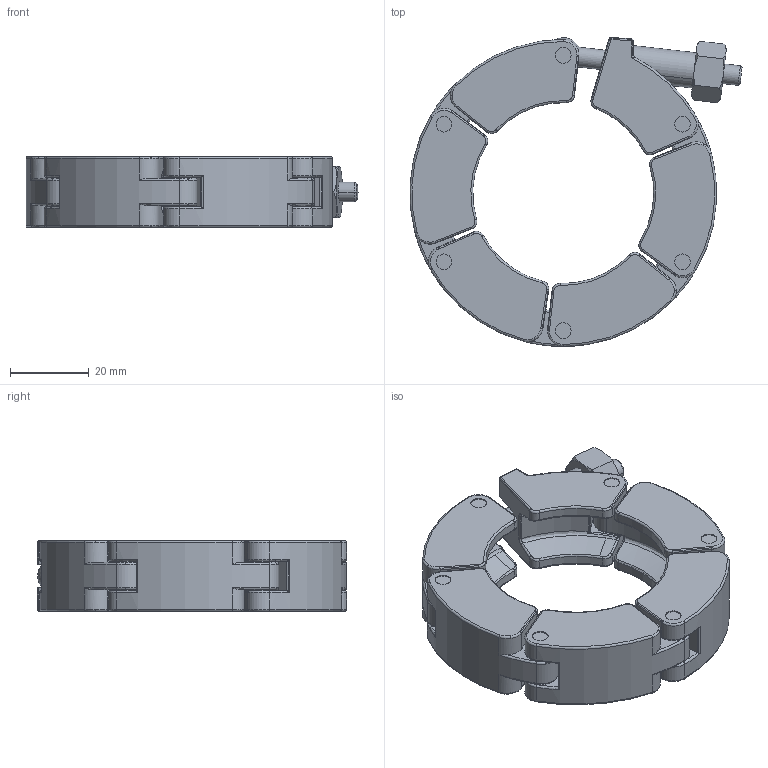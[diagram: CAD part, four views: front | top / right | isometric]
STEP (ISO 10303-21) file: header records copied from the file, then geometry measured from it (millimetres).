
FILE_DESCRIPTION((''),'2;1');
FILE_NAME('W:\3D-Model Inf_Kat\B9 KF Bauteile\211-023.stp','2003-10-02T16:18:23',('KAA'),(''),'Autodesk Inventor (R) 6.0','Autodesk Inventor (R) 6.0','');
FILE_SCHEMA(('CONFIG_CONTROL_DESIGN'));
Length unit declared in the file: millimetre
Products named in the file (1): 211-023
Bounding box: 84.37 x 78.54 x 18 mm (x, y, z)
Volume: 42901.9 mm3; surface area: 20166.3 mm2
Topology: 1 solids, 1 shells, 682 faces, 1733 edges, 1072 vertices
Faces by surface type: cylinder 245, torus 184, bspline 104, plane 93, cone 46, sphere 10
Entity records: 53336 total; most frequent: CARTESIAN_POINT 37207, ORIENTED_EDGE 3450, DIRECTION 3426, EDGE_CURVE 1725, AXIS2_PLACEMENT_3D 1515, VERTEX_POINT 1072, CIRCLE 932, EDGE_LOOP 721
